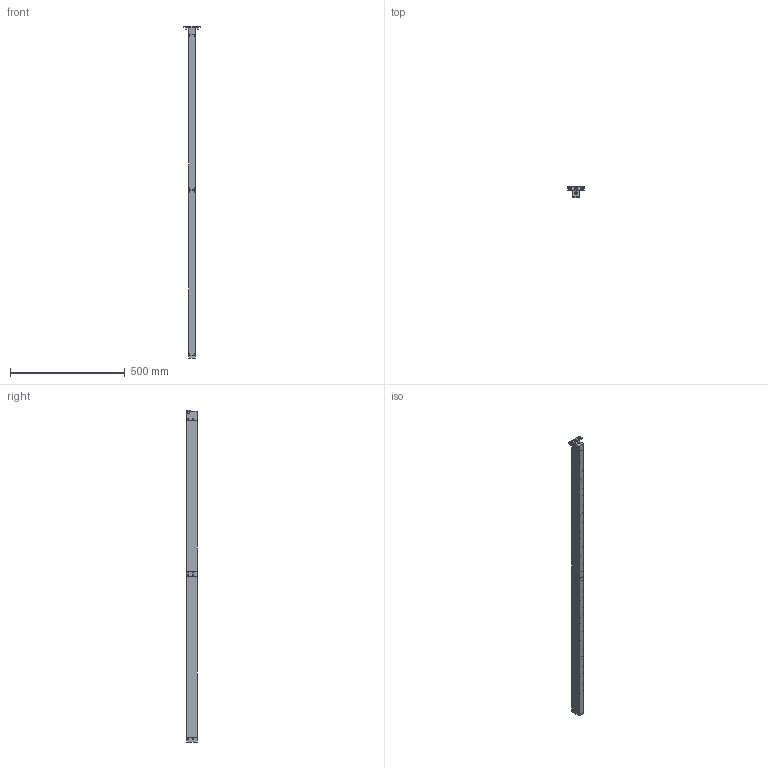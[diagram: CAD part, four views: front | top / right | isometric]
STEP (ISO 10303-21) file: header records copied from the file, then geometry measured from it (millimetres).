
FILE_DESCRIPTION(/* description */ ('DIE LIFTER'),/* implementation_level */ '2;1');
FILE_NAME(/* name */ 'S:\EASCN Vault\Designs\Standard Part\DIE LIFTERS\EHB\EHB- 3D step\EHB28 - 3D step complete serie\EHB28-31.stp',/* time_stamp */ '2019-11-27T10:48:46+08:00',/* author */ ('yue.yang'),/* organization */ (''),/* preprocessor_version */ 'ST-DEVELOPER v17',/* originating_system */ 'Autodesk Inventor 2019',/* authorisation */ '');
FILE_SCHEMA (('AUTOMOTIVE_DESIGN { 1 0 10303 214 3 1 1 }'));
Length unit declared in the file: millimetre
Products named in the file (2): EHB28-31; EHB28-31_Substitute_1
Assembly tree (1 placements, depth 2):
  EHB28-31
    EHB28-31_Substitute_1
Bounding box: 70 x 47.8 x 1444 mm (x, y, z)
Volume: 1619162.2 mm3; surface area: 413843.7 mm2
Topology: 34 solids, 34 shells, 974 faces, 2643 edges, 1863 vertices
Faces by surface type: plane 400, cylinder 307, cone 139, torus 97, sphere 31
Full cylindrical faces by diameter (mm): 3 x3, 5 x14, 5.5 x2, 6 x36, 6.5 x3, 6.647 x4, 7.5 x1, 10 x5, 10.5 x1, 11.445 x1, 12 x3, 16 x31, 20 x31, 21.5 x31, 24.05 x31, 24.2 x31
Entity records: 36881 total; most frequent: CARTESIAN_POINT 9967, DIRECTION 5677, ORIENTED_EDGE 5258, EDGE_CURVE 2629, AXIS2_PLACEMENT_3D 2414, VERTEX_POINT 1863, CIRCLE 1437, EDGE_LOOP 1240
